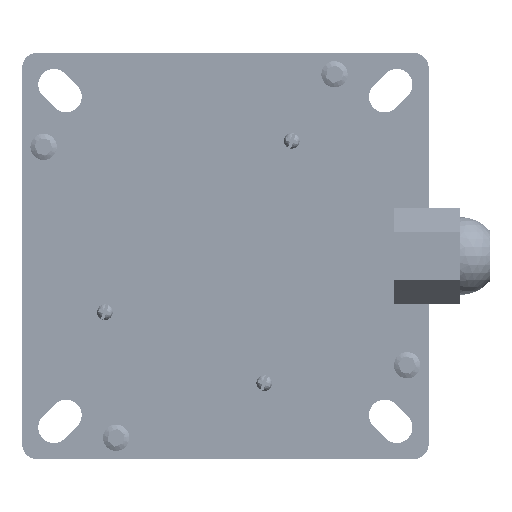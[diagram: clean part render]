
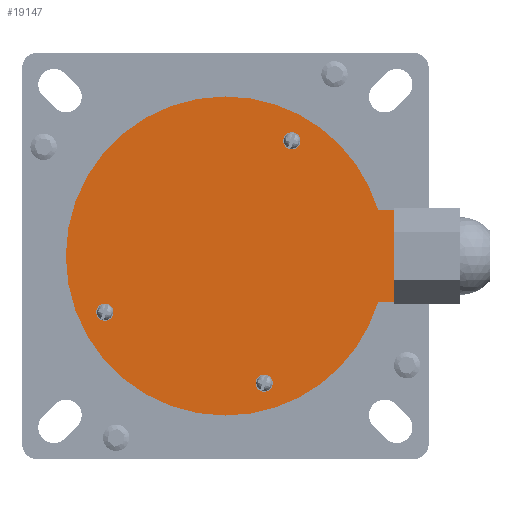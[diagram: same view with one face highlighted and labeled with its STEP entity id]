
A CAD part, front view. The second image highlights one B-rep face of the part: STEP entity #19147.
In plain terms, the highlighted planar face has unit normal (0, -1, 0) as drawn and (0, 1, 0) by its records, which use the part's own axes.
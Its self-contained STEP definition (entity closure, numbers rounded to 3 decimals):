
#514 = EDGE_LOOP ( 'NONE', ( #77435, #661 ) ) ;
#656 = AXIS2_PLACEMENT_3D ( 'NONE', #20603, #49556, #14985 ) ;
#661 = ORIENTED_EDGE ( 'NONE', *, *, #19590, .F. ) ;
#1344 = CARTESIAN_POINT ( 'NONE',  ( 0., 30., -14.75 ) ) ;
#2821 = DIRECTION ( 'NONE',  ( 0., 1., 0. ) ) ;
#2884 = CARTESIAN_POINT ( 'NONE',  ( 38.518, 30., -20.711 ) ) ;
#3069 = ORIENTED_EDGE ( 'NONE', *, *, #3789, .T. ) ;
#3319 = FACE_BOUND ( 'NONE', #83635, .T. ) ;
#3789 = EDGE_CURVE ( 'NONE', #64009, #92592, #4418, .T. ) ;
#4109 = EDGE_LOOP ( 'NONE', ( #81740, #13285 ) ) ;
#4418 = LINE ( 'NONE', #32026, #28572 ) ;
#4969 = ORIENTED_EDGE ( 'NONE', *, *, #87906, .F. ) ;
#5165 = CARTESIAN_POINT ( 'NONE',  ( 38.518, 30., -17.961 ) ) ;
#6950 = EDGE_LOOP ( 'NONE', ( #57753, #3069, #39649, #62585, #44623, #91007 ) ) ;
#7244 = VECTOR ( 'NONE', #57926, 1000. ) ;
#8222 = CARTESIAN_POINT ( 'NONE',  ( -12.426, 30., -43.393 ) ) ;
#10345 = FACE_BOUND ( 'NONE', #514, .T. ) ;
#11457 = VERTEX_POINT ( 'NONE', #2884 ) ;
#11766 = VERTEX_POINT ( 'NONE', #8222 ) ;
#13285 = ORIENTED_EDGE ( 'NONE', *, *, #57062, .F. ) ;
#14171 = AXIS2_PLACEMENT_3D ( 'NONE', #52403, #2821, #74842 ) ;
#14985 = DIRECTION ( 'NONE',  ( 0., 0., 1. ) ) ;
#15088 = VERTEX_POINT ( 'NONE', #66921 ) ;
#17386 = PLANE ( 'NONE',  #89298 ) ;
#18469 = EDGE_CURVE ( 'NONE', #43169, #51432, #46013, .T. ) ;
#18616 = VERTEX_POINT ( 'NONE', #86839 ) ;
#18972 = CARTESIAN_POINT ( 'NONE',  ( -12.426, 30., -40.643 ) ) ;
#19147 = ADVANCED_FACE ( 'NONE', ( #10345, #73013, #3319, #66007 ), #17386, .T. ) ;
#19590 = EDGE_CURVE ( 'NONE', #77568, #52586, #79816, .T. ) ;
#20603 = CARTESIAN_POINT ( 'NONE',  ( -21.25, 30., 36.806 ) ) ;
#21040 = CARTESIAN_POINT ( 'NONE',  ( 0., 30., 0. ) ) ;
#22321 = CIRCLE ( 'NONE', #68565, 2.75 ) ;
#23585 = AXIS2_PLACEMENT_3D ( 'NONE', #73819, #50956, #87871 ) ;
#24396 = CARTESIAN_POINT ( 'NONE',  ( 0., 30., 0. ) ) ;
#24891 = CARTESIAN_POINT ( 'NONE',  ( 0., 30., 0. ) ) ;
#25113 = CIRCLE ( 'NONE', #60910, 2.75 ) ;
#26381 = EDGE_CURVE ( 'NONE', #11766, #53436, #56071, .T. ) ;
#26680 = DIRECTION ( 'NONE',  ( 0., 1., 0. ) ) ;
#27360 = DIRECTION ( 'NONE',  ( 0., 0., 1. ) ) ;
#28572 = VECTOR ( 'NONE', #54880, 1000. ) ;
#31808 = CARTESIAN_POINT ( 'NONE',  ( -21.25, 30., 39.556 ) ) ;
#32026 = CARTESIAN_POINT ( 'NONE',  ( -53.999, 30., 0. ) ) ;
#34577 = DIRECTION ( 'NONE',  ( 0., 1., 0. ) ) ;
#34591 = DIRECTION ( 'NONE',  ( 0., 0., 1. ) ) ;
#34648 = DIRECTION ( 'NONE',  ( 0., 1., 0. ) ) ;
#39649 = ORIENTED_EDGE ( 'NONE', *, *, #85841, .T. ) ;
#41446 = CIRCLE ( 'NONE', #23585, 51. ) ;
#42044 = DIRECTION ( 'NONE',  ( 0., 0., 1. ) ) ;
#43169 = VERTEX_POINT ( 'NONE', #47376 ) ;
#44623 = ORIENTED_EDGE ( 'NONE', *, *, #80096, .T. ) ;
#45653 = DIRECTION ( 'NONE',  ( 1., 0., 0. ) ) ;
#46013 = CIRCLE ( 'NONE', #83358, 51. ) ;
#46329 = AXIS2_PLACEMENT_3D ( 'NONE', #21040, #26680, #34591 ) ;
#46615 = EDGE_CURVE ( 'NONE', #52586, #77568, #58951, .T. ) ;
#47376 = CARTESIAN_POINT ( 'NONE',  ( 0., 30., -51. ) ) ;
#47449 = DIRECTION ( 'NONE',  ( 0., 1., 0. ) ) ;
#47515 = VECTOR ( 'NONE', #45653, 1000. ) ;
#49556 = DIRECTION ( 'NONE',  ( 0., 1., 0. ) ) ;
#50956 = DIRECTION ( 'NONE',  ( 0., 1., 0. ) ) ;
#51432 = VERTEX_POINT ( 'NONE', #75132 ) ;
#52403 = CARTESIAN_POINT ( 'NONE',  ( -21.25, 30., 36.806 ) ) ;
#52412 = CARTESIAN_POINT ( 'NONE',  ( -53.999, 30., -14.75 ) ) ;
#52586 = VERTEX_POINT ( 'NONE', #31808 ) ;
#53011 = ORIENTED_EDGE ( 'NONE', *, *, #26381, .F. ) ;
#53368 = DIRECTION ( 'NONE',  ( 0., 1., 0. ) ) ;
#53436 = VERTEX_POINT ( 'NONE', #72868 ) ;
#54880 = DIRECTION ( 'NONE',  ( 0., 0., 1. ) ) ;
#55164 = EDGE_CURVE ( 'NONE', #64009, #51432, #62747, .T. ) ;
#56026 = CARTESIAN_POINT ( 'NONE',  ( 38.518, 30., -17.961 ) ) ;
#56071 = CIRCLE ( 'NONE', #81468, 2.75 ) ;
#56171 = CARTESIAN_POINT ( 'NONE',  ( -21.25, 30., 34.056 ) ) ;
#56573 = DIRECTION ( 'NONE',  ( 0., 0., 1. ) ) ;
#56800 = CARTESIAN_POINT ( 'NONE',  ( -12.426, 30., -40.643 ) ) ;
#57062 = EDGE_CURVE ( 'NONE', #11457, #81460, #25113, .T. ) ;
#57753 = ORIENTED_EDGE ( 'NONE', *, *, #55164, .F. ) ;
#57926 = DIRECTION ( 'NONE',  ( 1., 0., 0. ) ) ;
#58492 = AXIS2_PLACEMENT_3D ( 'NONE', #5165, #34648, #56573 ) ;
#58741 = LINE ( 'NONE', #87302, #47515 ) ;
#58951 = CIRCLE ( 'NONE', #14171, 2.75 ) ;
#60910 = AXIS2_PLACEMENT_3D ( 'NONE', #56026, #34577, #42044 ) ;
#62585 = ORIENTED_EDGE ( 'NONE', *, *, #85221, .T. ) ;
#62747 = LINE ( 'NONE', #1344, #7244 ) ;
#63233 = CARTESIAN_POINT ( 'NONE',  ( -53.999, 30., 14.75 ) ) ;
#64009 = VERTEX_POINT ( 'NONE', #52412 ) ;
#65941 = EDGE_CURVE ( 'NONE', #81460, #11457, #67464, .T. ) ;
#66007 = FACE_OUTER_BOUND ( 'NONE', #6950, .T. ) ;
#66921 = CARTESIAN_POINT ( 'NONE',  ( 0., 30., 51. ) ) ;
#67464 = CIRCLE ( 'NONE', #58492, 2.75 ) ;
#68565 = AXIS2_PLACEMENT_3D ( 'NONE', #56800, #92372, #70830 ) ;
#70815 = CARTESIAN_POINT ( 'NONE',  ( 38.518, 30., -15.211 ) ) ;
#70830 = DIRECTION ( 'NONE',  ( 0., 0., 1. ) ) ;
#72547 = DIRECTION ( 'NONE',  ( 0., 0., 1. ) ) ;
#72868 = CARTESIAN_POINT ( 'NONE',  ( -12.426, 30., -37.893 ) ) ;
#73013 = FACE_BOUND ( 'NONE', #4109, .T. ) ;
#73819 = CARTESIAN_POINT ( 'NONE',  ( 0., 30., 0. ) ) ;
#74842 = DIRECTION ( 'NONE',  ( 0., 0., 1. ) ) ;
#75132 = CARTESIAN_POINT ( 'NONE',  ( -48.82, 30., -14.75 ) ) ;
#77435 = ORIENTED_EDGE ( 'NONE', *, *, #46615, .F. ) ;
#77568 = VERTEX_POINT ( 'NONE', #56171 ) ;
#79816 = CIRCLE ( 'NONE', #656, 2.75 ) ;
#80096 = EDGE_CURVE ( 'NONE', #15088, #43169, #86671, .T. ) ;
#80954 = DIRECTION ( 'NONE',  ( 0., 1., 0. ) ) ;
#81460 = VERTEX_POINT ( 'NONE', #70815 ) ;
#81468 = AXIS2_PLACEMENT_3D ( 'NONE', #18972, #47449, #27360 ) ;
#81740 = ORIENTED_EDGE ( 'NONE', *, *, #65941, .F. ) ;
#81917 = DIRECTION ( 'NONE',  ( 0., 0., 1. ) ) ;
#83358 = AXIS2_PLACEMENT_3D ( 'NONE', #24891, #53368, #81917 ) ;
#83635 = EDGE_LOOP ( 'NONE', ( #4969, #53011 ) ) ;
#85221 = EDGE_CURVE ( 'NONE', #18616, #15088, #41446, .T. ) ;
#85841 = EDGE_CURVE ( 'NONE', #92592, #18616, #58741, .T. ) ;
#86671 = CIRCLE ( 'NONE', #46329, 51. ) ;
#86839 = CARTESIAN_POINT ( 'NONE',  ( -48.82, 30., 14.75 ) ) ;
#87302 = CARTESIAN_POINT ( 'NONE',  ( 0., 30., 14.75 ) ) ;
#87871 = DIRECTION ( 'NONE',  ( 0., 0., 1. ) ) ;
#87906 = EDGE_CURVE ( 'NONE', #53436, #11766, #22321, .T. ) ;
#89298 = AXIS2_PLACEMENT_3D ( 'NONE', #24396, #80954, #72547 ) ;
#91007 = ORIENTED_EDGE ( 'NONE', *, *, #18469, .T. ) ;
#92372 = DIRECTION ( 'NONE',  ( 0., 1., 0. ) ) ;
#92592 = VERTEX_POINT ( 'NONE', #63233 ) ;
